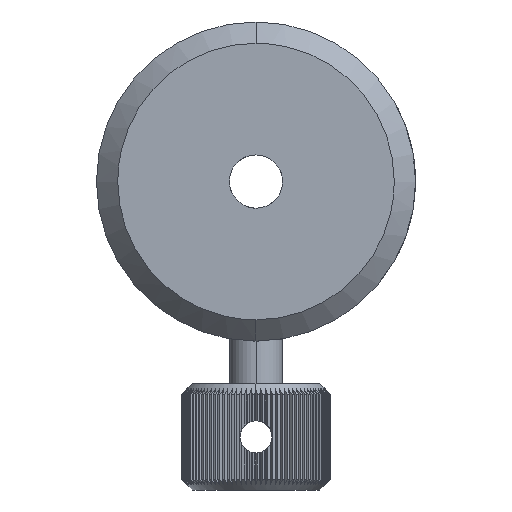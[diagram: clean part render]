
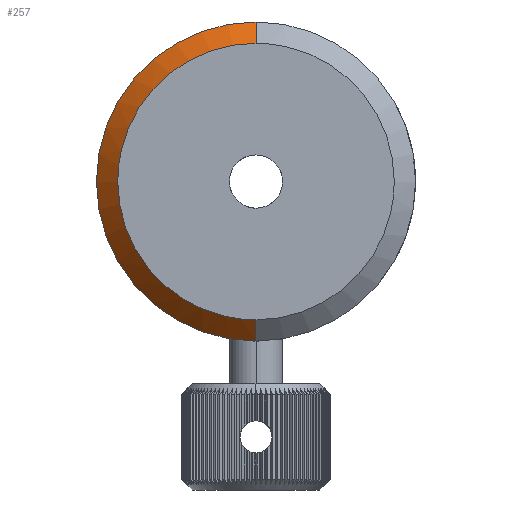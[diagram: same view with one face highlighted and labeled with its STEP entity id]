
A CAD part, front view. The second image highlights one B-rep face of the part: STEP entity #257.
In plain terms, the highlighted conical face has half-angle 45 degrees and reference radius 13 mm.
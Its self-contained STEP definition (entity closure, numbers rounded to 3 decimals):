
#230 = FACE_OUTER_BOUND ( 'NONE', #6690, .T. ) ;
#246 = CARTESIAN_POINT ( 'NONE',  ( -15.486, -93.717, 38.5 ) ) ;
#257 = ADVANCED_FACE ( 'NONE', ( #230 ), #4860, .T. ) ;
#287 = CARTESIAN_POINT ( 'NONE',  ( -14.17, -93.717, 44.263 ) ) ;
#349 = CARTESIAN_POINT ( 'NONE',  ( -15.403, -93.717, 36.801 ) ) ;
#552 = ORIENTED_EDGE ( 'NONE', *, *, #6655, .F. ) ;
#956 = B_SPLINE_CURVE_WITH_KNOTS ( 'NONE', 3,
 ( #12983, #1306, #5601, #10849, #12933, #1402, #5504, #4546, #9772, #8748, #6602, #1349, #287, #12884, #8667, #2473, #4495, #246 ),
 .UNSPECIFIED., .F., .F.,
 ( 4, 2, 2, 2, 2, 2, 2, 2, 4 ),
 ( 0.5, 0.563, 0.625, 0.687, 0.75, 0.813, 0.875, 0.938, 1. ),
 .UNSPECIFIED. ) ;
#1306 = CARTESIAN_POINT ( 'NONE',  ( -3.34, -93.717, 51.5 ) ) ;
#1349 = CARTESIAN_POINT ( 'NONE',  ( -13.77, -93.717, 45.013 ) ) ;
#1402 = CARTESIAN_POINT ( 'NONE',  ( -8.25, -93.717, 50.184 ) ) ;
#1745 = ORIENTED_EDGE ( 'NONE', *, *, #6684, .T. ) ;
#2380 = VERTEX_POINT ( 'NONE', #4425 ) ;
#2402 = CIRCLE ( 'NONE', #13159, 15. ) ;
#2448 = CARTESIAN_POINT ( 'NONE',  ( -15.07, -93.717, 35.127 ) ) ;
#2473 = CARTESIAN_POINT ( 'NONE',  ( -15.403, -93.717, 40.2 ) ) ;
#2579 = CARTESIAN_POINT ( 'NONE',  ( -2.486, -91.717, 23.5 ) ) ;
#2851 = CARTESIAN_POINT ( 'NONE',  ( -2.486, -93.717, 25.5 ) ) ;
#3645 = VERTEX_POINT ( 'NONE', #2851 ) ;
#4188 = CARTESIAN_POINT ( 'NONE',  ( -2.486, -91.717, 53.5 ) ) ;
#4365 = LINE ( 'NONE', #13599, #9624 ) ;
#4425 = CARTESIAN_POINT ( 'NONE',  ( -2.486, -93.717, 51.5 ) ) ;
#4495 = CARTESIAN_POINT ( 'NONE',  ( -15.486, -93.717, 39.354 ) ) ;
#4507 = CARTESIAN_POINT ( 'NONE',  ( -15.486, -93.717, 38.5 ) ) ;
#4546 = CARTESIAN_POINT ( 'NONE',  ( -10.418, -93.717, 48.835 ) ) ;
#4557 = CARTESIAN_POINT ( 'NONE',  ( -4.186, -93.717, 25.583 ) ) ;
#4860 = CONICAL_SURFACE ( 'NONE', #7089, 13., 0.785 ) ;
#5272 = EDGE_CURVE ( 'NONE', #3645, #13522, #10646, .T. ) ;
#5339 = DIRECTION ( 'NONE',  ( 0., -1., 0. ) ) ;
#5504 = CARTESIAN_POINT ( 'NONE',  ( -8.999, -93.717, 49.783 ) ) ;
#5519 = CARTESIAN_POINT ( 'NONE',  ( -8.999, -93.717, 27.217 ) ) ;
#5601 = CARTESIAN_POINT ( 'NONE',  ( -4.186, -93.717, 51.417 ) ) ;
#5704 = CARTESIAN_POINT ( 'NONE',  ( -14.823, -93.717, 34.313 ) ) ;
#5865 = VERTEX_POINT ( 'NONE', #7580 ) ;
#6080 = CARTESIAN_POINT ( 'NONE',  ( -2.486, -93.717, 38.5 ) ) ;
#6188 = VECTOR ( 'NONE', #10174, 1000. ) ;
#6441 = DIRECTION ( 'NONE',  ( 0., 0., 1. ) ) ;
#6562 = CARTESIAN_POINT ( 'NONE',  ( -11.076, -93.717, 28.704 ) ) ;
#6602 = CARTESIAN_POINT ( 'NONE',  ( -12.822, -93.717, 46.432 ) ) ;
#6655 = EDGE_CURVE ( 'NONE', #2380, #5865, #956, .T. ) ;
#6684 = EDGE_CURVE ( 'NONE', #9931, #13522, #2402, .T. ) ;
#6690 = EDGE_LOOP ( 'NONE', ( #10100, #9779, #552, #7239, #1745 ) ) ;
#6706 = EDGE_CURVE ( 'NONE', #2380, #9931, #4365, .T. ) ;
#6748 = CARTESIAN_POINT ( 'NONE',  ( -12.282, -93.717, 29.911 ) ) ;
#7089 = AXIS2_PLACEMENT_3D ( 'NONE', #6080, #7140, #6441 ) ;
#7140 = DIRECTION ( 'NONE',  ( 0., 1., 0. ) ) ;
#7239 = ORIENTED_EDGE ( 'NONE', *, *, #6706, .T. ) ;
#7580 = CARTESIAN_POINT ( 'NONE',  ( -15.486, -93.717, 38.5 ) ) ;
#7706 = CARTESIAN_POINT ( 'NONE',  ( -3.34, -93.717, 25.5 ) ) ;
#8513 = CARTESIAN_POINT ( 'NONE',  ( -2.486, -91.717, 38.5 ) ) ;
#8667 = CARTESIAN_POINT ( 'NONE',  ( -15.07, -93.717, 41.873 ) ) ;
#8748 = CARTESIAN_POINT ( 'NONE',  ( -12.282, -93.717, 47.089 ) ) ;
#8763 = CARTESIAN_POINT ( 'NONE',  ( -2.486, -93.717, 25.5 ) ) ;
#8856 = CARTESIAN_POINT ( 'NONE',  ( -10.418, -93.717, 28.165 ) ) ;
#9516 = DIRECTION ( 'NONE',  ( 0., 0.707, 0.707 ) ) ;
#9624 = VECTOR ( 'NONE', #9516, 1000. ) ;
#9772 = CARTESIAN_POINT ( 'NONE',  ( -11.076, -93.717, 48.296 ) ) ;
#9779 = ORIENTED_EDGE ( 'NONE', *, *, #13408, .F. ) ;
#9784 = CARTESIAN_POINT ( 'NONE',  ( -6.673, -93.717, 26.163 ) ) ;
#9931 = VERTEX_POINT ( 'NONE', #4188 ) ;
#10100 = ORIENTED_EDGE ( 'NONE', *, *, #5272, .F. ) ;
#10174 = DIRECTION ( 'NONE',  ( 0., 0.707, -0.707 ) ) ;
#10646 = LINE ( 'NONE', #11272, #6188 ) ;
#10768 = CARTESIAN_POINT ( 'NONE',  ( -12.822, -93.717, 30.568 ) ) ;
#10849 = CARTESIAN_POINT ( 'NONE',  ( -5.859, -93.717, 51.084 ) ) ;
#10857 = CARTESIAN_POINT ( 'NONE',  ( -5.859, -93.717, 25.916 ) ) ;
#11272 = CARTESIAN_POINT ( 'NONE',  ( -2.486, -93.717, 25.5 ) ) ;
#11956 = CARTESIAN_POINT ( 'NONE',  ( -14.17, -93.717, 32.737 ) ) ;
#11994 = CARTESIAN_POINT ( 'NONE',  ( -15.486, -93.717, 37.646 ) ) ;
#12730 = B_SPLINE_CURVE_WITH_KNOTS ( 'NONE', 3,
 ( #4507, #11994, #349, #2448, #5704, #11956, #13084, #10768, #6748, #6562, #8856, #5519, #12895, #9784, #10857, #4557, #7706, #8763 ),
 .UNSPECIFIED., .F., .F.,
 ( 4, 2, 2, 2, 2, 2, 2, 2, 4 ),
 ( 0., 0.062, 0.125, 0.187, 0.25, 0.312, 0.375, 0.437, 0.5 ),
 .UNSPECIFIED. ) ;
#12732 = DIRECTION ( 'NONE',  ( -1., 0., 0. ) ) ;
#12884 = CARTESIAN_POINT ( 'NONE',  ( -14.823, -93.717, 42.687 ) ) ;
#12895 = CARTESIAN_POINT ( 'NONE',  ( -8.25, -93.717, 26.816 ) ) ;
#12933 = CARTESIAN_POINT ( 'NONE',  ( -6.673, -93.717, 50.837 ) ) ;
#12983 = CARTESIAN_POINT ( 'NONE',  ( -2.486, -93.717, 51.5 ) ) ;
#13084 = CARTESIAN_POINT ( 'NONE',  ( -13.77, -93.717, 31.987 ) ) ;
#13159 = AXIS2_PLACEMENT_3D ( 'NONE', #8513, #5339, #12732 ) ;
#13408 = EDGE_CURVE ( 'NONE', #5865, #3645, #12730, .T. ) ;
#13522 = VERTEX_POINT ( 'NONE', #2579 ) ;
#13599 = CARTESIAN_POINT ( 'NONE',  ( -2.486, -93.717, 51.5 ) ) ;
